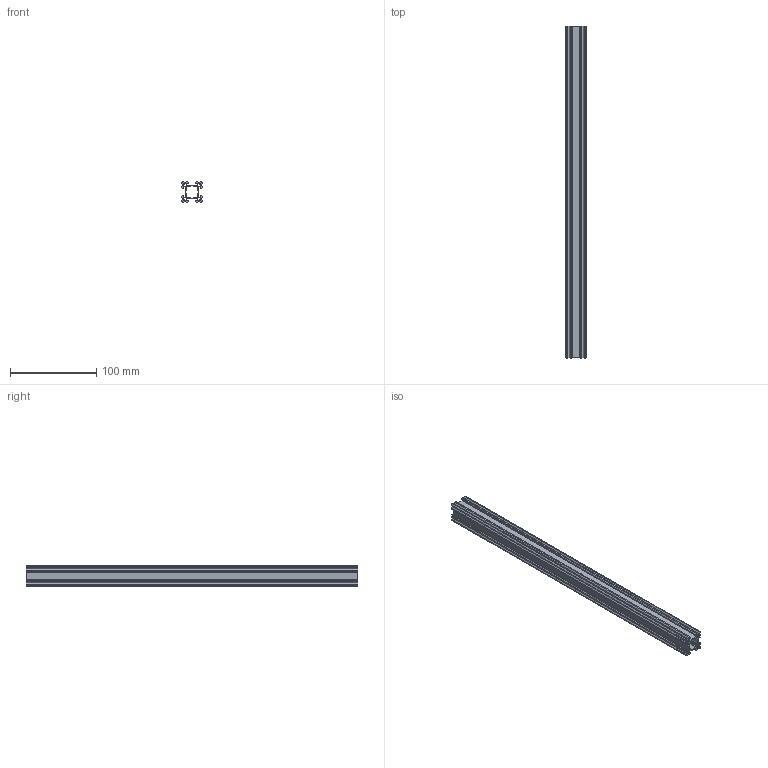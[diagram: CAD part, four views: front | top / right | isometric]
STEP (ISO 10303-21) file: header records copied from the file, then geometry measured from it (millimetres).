
FILE_DESCRIPTION (( 'STEP AP203' ), '1' );
FILE_NAME ('1109-0016-0384.STEP', '2017-05-15T21:53:27', ( '' ), ( '' ), 'SwSTEP 2.0', 'SolidWorks 2016', '' );
FILE_SCHEMA (( 'CONFIG_CONTROL_DESIGN' ));
Length unit declared in the file: millimetre
Products named in the file (1): 1109-0016-0384
Bounding box: 24 x 384 x 24 mm (x, y, z)
Volume: 75890.2 mm3; surface area: 95052.5 mm2
Topology: 1 solids, 1 shells, 807 faces, 2405 edges, 1600 vertices
Faces by surface type: cylinder 683, plane 88, cone 20, bspline 16
Entity records: 53534 total; most frequent: CARTESIAN_POINT 35507, ORIENTED_EDGE 4810, DIRECTION 2779, EDGE_CURVE 2405, VERTEX_POINT 1600, AXIS2_PLACEMENT_3D 928, LINE 923, VECTOR 923
